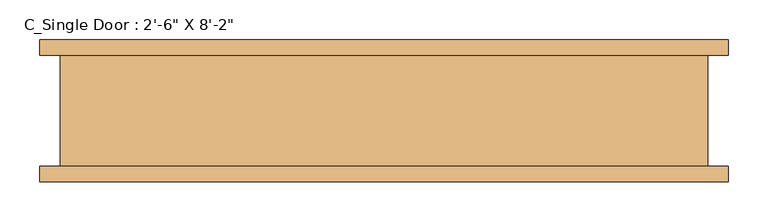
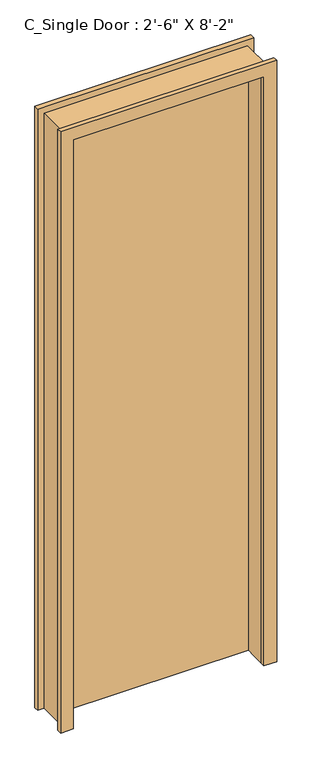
"""IFC4 building model written with IfcOpenShell, lengths in millimetres: door geometry."""

from ifc_helpers import new_model, si_unit, frame, origin, origin_with_axes, place, context, project, spatial, polyline, outline, extrude, source, transform, mapped, element, save


def door_a0381998(model_context):
    return source(origin(), model_context, "Body", "SweptSolid", [
        extrude(outline(polyline([(381.0, 69.85), (381.0, 19.05), (-381.0, 19.05), (-381.0, 69.85), (381.0, 69.85)])), origin_with_axes(), (0.0, 0.0, 1.0), 2489.2),
        extrude(outline(polyline([(2489.2, -381.0), (2489.2, 381.0), (0.0, 381.0), (0.0, 431.8), (2540.0, 431.8), (2540.0, -431.8), (0.0, -431.8), (0.0, -381.0), (2489.2, -381.0)])), frame((0.0, 69.85, 0.0), z_axis=(0.0, 1.0, 0.0), x_axis=(0.0, 0.0, 1.0)), (0.0, 0.0, 1.0), 19.05),
        extrude(outline(polyline([(2489.2, -381.0), (2489.2, 381.0), (0.0, 381.0), (0.0, 431.8), (2540.0, 431.8), (2540.0, -431.8), (0.0, -431.8), (0.0, -381.0), (2489.2, -381.0)])), frame((0.0, -88.9, 0.0), z_axis=(0.0, 1.0, 0.0), x_axis=(0.0, 0.0, 1.0)), (0.0, 0.0, 1.0), 19.05),
        extrude(outline(polyline([(0.0, -381.0), (2489.2, -381.0), (2489.2, 381.0), (0.0, 381.0), (0.0, 406.4), (2514.6, 406.4), (2514.6, -406.4), (0.0, -406.4), (0.0, -381.0)])), frame((0.0, -69.85, 0.0), z_axis=(0.0, 1.0, 0.0), x_axis=(0.0, 0.0, 1.0)), (0.0, 0.0, 1.0), 139.7),
    ])


if __name__ == "__main__":
    model = new_model("IFC4")
    model_context = context("Model", 3, world=origin())
    ifc_project = project(units=[si_unit("LENGTHUNIT", "METRE", prefix="MILLI")], contexts=[model_context])
    site = spatial("IfcSite", under=ifc_project)
    building = spatial("IfcBuilding", under=site)
    placement = place(None, origin())
    door_shape = door_a0381998(model_context)
    element("IfcDoor", 1, ObjectType="C_Single Door : 2'-6\" X 8'-2\"", at=placement, inside=building, context=model_context, shape_type="MappedRepresentation", body=[
        mapped(door_shape, transform((0.0, 0.0, 0.0), x_axis=(1.0, 0.0, 0.0), y_axis=(0.0, 1.0, 0.0), z_axis=(0.0, 0.0, 1.0))),
    ])
    save(model, "model.ifc")
